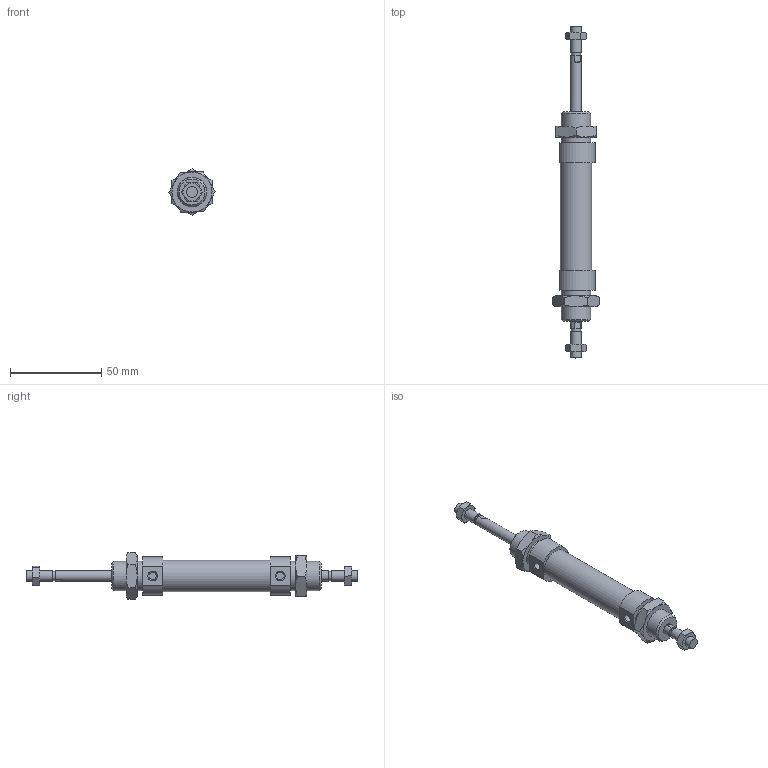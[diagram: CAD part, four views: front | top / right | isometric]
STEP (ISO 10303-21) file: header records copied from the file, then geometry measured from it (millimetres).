
FILE_DESCRIPTION((''),'2;1');
FILE_NAME('I:\Area Tecnica\Disegni\VARIE-3D\Componenti\1280\1282_##_####_#\1282_16_0025.iam.stp','2009-06-03T15:24:31',(''),(''),'Autodesk Inventor 2010','Autodesk Inventor 2010','');
FILE_SCHEMA(('AUTOMOTIVE_DESIGN { 1 0 10303 214 1 1 1 1 }'));
Length unit declared in the file: millimetre
Products named in the file (5): 1282_16_0025; C1282_16_25; S1282_16_25; 1200_16_05; 1200_16_06
Assembly tree (6 placements, depth 2):
  1282_16_0025
    C1282_16_25
    S1282_16_25
    1200_16_05  x2
    1200_16_06  x2
Bounding box: 25.4 x 182 x 25.4 mm (x, y, z)
Volume: 33047.3 mm3; surface area: 15855.3 mm2
Topology: 6 solids, 6 shells, 135 faces, 283 edges, 168 vertices
Faces by surface type: plane 56, cone 52, bspline 16, cylinder 11
Full cylindrical faces by diameter (mm): 5 x2, 6 x4, 16 x2, 17.2 x1
Entity records: 2543 total; most frequent: CARTESIAN_POINT 619, DIRECTION 358, ORIENTED_EDGE 316, AXIS2_PLACEMENT_3D 159, EDGE_CURVE 158, EDGE_LOOP 124, VERTEX_POINT 106, STYLED_ITEM 93
